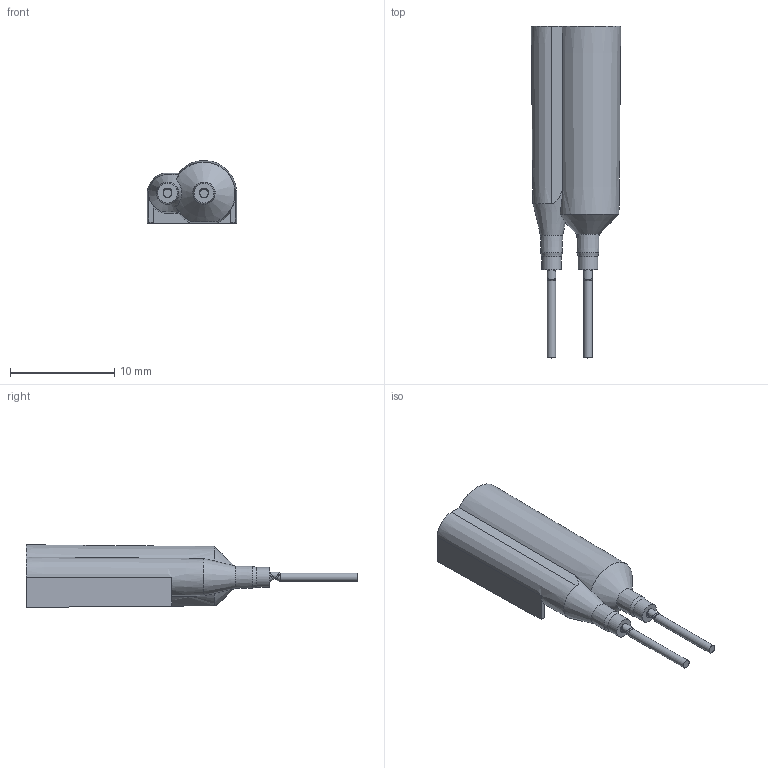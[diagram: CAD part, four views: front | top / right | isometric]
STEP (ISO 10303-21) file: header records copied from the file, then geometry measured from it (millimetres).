
FILE_DESCRIPTION(/* description */ ('Unknown'),/* implementation_level */ '2;1');
FILE_NAME(/* name */ '01V-WCY-05',/* time_stamp */ '2023-06-24T18:20:43+02:00',/* author */ ('Unknown'),/* organization */ ('Unknown'),/* preprocessor_version */ 'ST-DEVELOPER v16.7',/* originating_system */ 'Solid Edge',/* authorisation */ 'Unknown');
FILE_SCHEMA (('AUTOMOTIVE_DESIGN {1 0 10303 214 3 1 1}'));
Length unit declared in the file: millimetre
Products named in the file (3): 01V-WCY-05; 01V-W08-04; 01V-W07-09
Assembly tree (2 placements, depth 2):
  01V-WCY-05
    01V-W08-04
    01V-W07-09
Bounding box: 8.59 x 31.9 x 6.03 mm (x, y, z)
Volume: 576.9 mm3; surface area: 1337.3 mm2
Topology: 2 solids, 2 shells, 63 faces, 166 edges, 96 vertices
Faces by surface type: plane 23, cylinder 18, cone 13, torus 8, bspline 1
Full cylindrical faces by diameter (mm): 0.8 x8, 0.85 x2, 1.2 x2, 1.9 x2, 4.2 x1, 4.4 x1
Entity records: 2180 total; most frequent: CARTESIAN_POINT 681, DIRECTION 279, ORIENTED_EDGE 218, AXIS2_PLACEMENT_3D 121, EDGE_CURVE 109, EDGE_LOOP 97, FACE_BOUND 97, VERTEX_POINT 80
